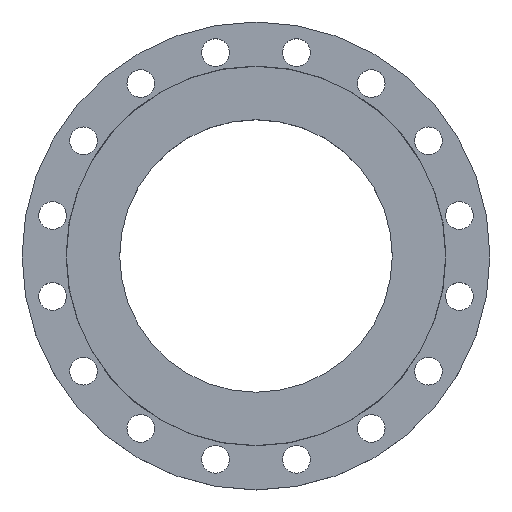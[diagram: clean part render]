
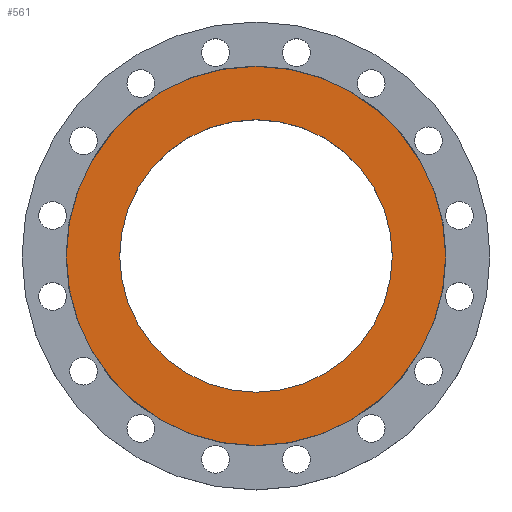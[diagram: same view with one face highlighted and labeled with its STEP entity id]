
A CAD part, top view. The second image highlights one B-rep face of the part: STEP entity #561.
In plain terms, the highlighted planar face has unit normal (0, 0, 1).
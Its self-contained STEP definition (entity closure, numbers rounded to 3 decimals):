
#123 = CARTESIAN_POINT ( 'NONE',  ( -267.5, 0., 0. ) ) ;
#159 = DIRECTION ( 'NONE',  ( -1., 0., 0. ) ) ;
#160 = DIRECTION ( 'NONE',  ( 0., 0., -1. ) ) ;
#162 = CARTESIAN_POINT ( 'NONE',  ( 0., 0., 0. ) ) ;
#227 = DIRECTION ( 'NONE',  ( -1., 0., 0. ) ) ;
#231 = DIRECTION ( 'NONE',  ( 0., 0., -1. ) ) ;
#233 = CARTESIAN_POINT ( 'NONE',  ( 0., 0., 0. ) ) ;
#264 = AXIS2_PLACEMENT_3D ( 'NONE', #599, #598, #595 ) ;
#337 = CARTESIAN_POINT ( 'NONE',  ( 267.5, 0., 0. ) ) ;
#382 = CARTESIAN_POINT ( 'NONE',  ( 192.2, 0., 0. ) ) ;
#385 = CARTESIAN_POINT ( 'NONE',  ( -192.2, 0., 0. ) ) ;
#528 = EDGE_CURVE ( 'NONE', #850, #853, #762, .T. ) ;
#561 = ADVANCED_FACE ( 'NONE', ( #576, #574 ), #572, .T. ) ;
#568 = DIRECTION ( 'NONE',  ( 1., 0., 0. ) ) ;
#570 = DIRECTION ( 'NONE',  ( 0., 0., 1. ) ) ;
#571 = CARTESIAN_POINT ( 'NONE',  ( 0., 0., 0. ) ) ;
#572 = PLANE ( 'NONE',  #683 ) ;
#574 = FACE_OUTER_BOUND ( 'NONE', #918, .T. ) ;
#576 = FACE_BOUND ( 'NONE', #1018, .T. ) ;
#595 = DIRECTION ( 'NONE',  ( -1., 0., 0. ) ) ;
#598 = DIRECTION ( 'NONE',  ( 0., 0., -1. ) ) ;
#599 = CARTESIAN_POINT ( 'NONE',  ( 0., 0., 0. ) ) ;
#666 = DIRECTION ( 'NONE',  ( -1., 0., 0. ) ) ;
#683 = AXIS2_PLACEMENT_3D ( 'NONE', #571, #570, #568 ) ;
#762 = CIRCLE ( 'NONE', #264, 192.2 ) ;
#850 = VERTEX_POINT ( 'NONE', #385 ) ;
#853 = VERTEX_POINT ( 'NONE', #382 ) ;
#896 = VERTEX_POINT ( 'NONE', #337 ) ;
#918 = EDGE_LOOP ( 'NONE', ( #1052, #1055 ) ) ;
#1003 = ORIENTED_EDGE ( 'NONE', *, *, #528, .T. ) ;
#1018 = EDGE_LOOP ( 'NONE', ( #1003, #1053 ) ) ;
#1019 = EDGE_CURVE ( 'NONE', #1127, #896, #1482, .T. ) ;
#1052 = ORIENTED_EDGE ( 'NONE', *, *, #1019, .F. ) ;
#1053 = ORIENTED_EDGE ( 'NONE', *, *, #1624, .T. ) ;
#1055 = ORIENTED_EDGE ( 'NONE', *, *, #1088, .F. ) ;
#1088 = EDGE_CURVE ( 'NONE', #896, #1127, #1578, .T. ) ;
#1127 = VERTEX_POINT ( 'NONE', #123 ) ;
#1155 = CIRCLE ( 'NONE', #1577, 192.2 ) ;
#1185 = AXIS2_PLACEMENT_3D ( 'NONE', #162, #160, #159 ) ;
#1394 = CARTESIAN_POINT ( 'NONE',  ( 0., 0., 0. ) ) ;
#1482 = CIRCLE ( 'NONE', #1485, 267.5 ) ;
#1485 = AXIS2_PLACEMENT_3D ( 'NONE', #233, #231, #227 ) ;
#1577 = AXIS2_PLACEMENT_3D ( 'NONE', #1394, #1695, #666 ) ;
#1578 = CIRCLE ( 'NONE', #1185, 267.5 ) ;
#1624 = EDGE_CURVE ( 'NONE', #853, #850, #1155, .T. ) ;
#1695 = DIRECTION ( 'NONE',  ( 0., 0., -1. ) ) ;
